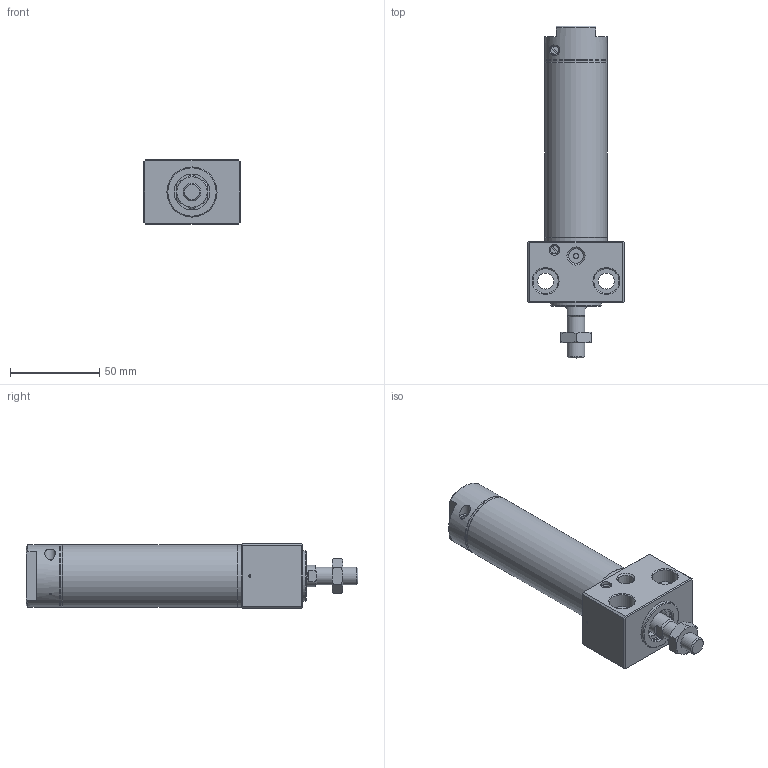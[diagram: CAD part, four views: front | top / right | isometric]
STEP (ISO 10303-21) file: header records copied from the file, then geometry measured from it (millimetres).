
FILE_DESCRIPTION((''),'2;1');
FILE_NAME('I:\3D電子目錄\氣缸\DBS\DBS\DBS30x50-C.stp','2007-10-08T08:43:06',('Administrator'),(''),'Autodesk Inventor 2008','Autodesk Inventor 2008','');
FILE_SCHEMA(('AUTOMOTIVE_DESIGN { 1 0 10303 214 1 1 1 1 }'));
Length unit declared in the file: millimetre
Products named in the file (1): DBS30x50-C
Bounding box: 54 x 185.6 x 36 mm (x, y, z)
Volume: 117103.6 mm3; surface area: 48503.7 mm2
Topology: 8 solids, 8 shells, 207 faces, 423 edges, 258 vertices
Faces by surface type: plane 93, cone 50, cylinder 48, bspline 13, torus 3
Full cylindrical faces by diameter (mm): 1.2 x1, 1.9 x2, 3 x3, 3.3 x2, 4.6 x2, 5 x2, 6 x2, 6.5 x1, 8 x1, 9 x1, 10 x2, 12 x1, 12.5 x1, 14 x1, 16 x1, 17 x2, 20 x2, 21 x3, 24 x2, 28 x3, 28.5 x2, 30 x1, 32.2 x6, 35 x4
Entity records: 5397 total; most frequent: CARTESIAN_POINT 1440, DIRECTION 828, ORIENTED_EDGE 642, AXIS2_PLACEMENT_3D 364, EDGE_LOOP 349, EDGE_CURVE 321, VERTEX_POINT 246, FACE_OUTER_BOUND 207
